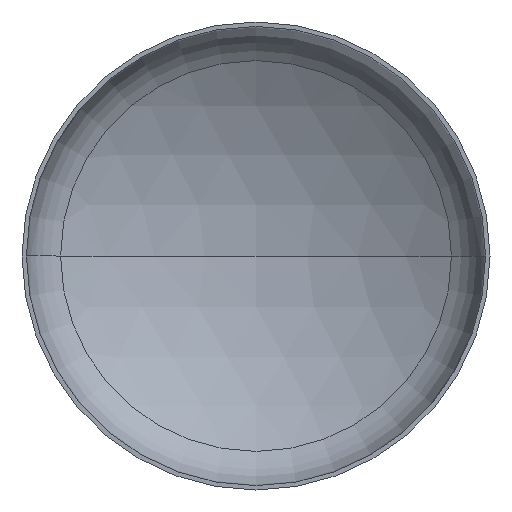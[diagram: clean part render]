
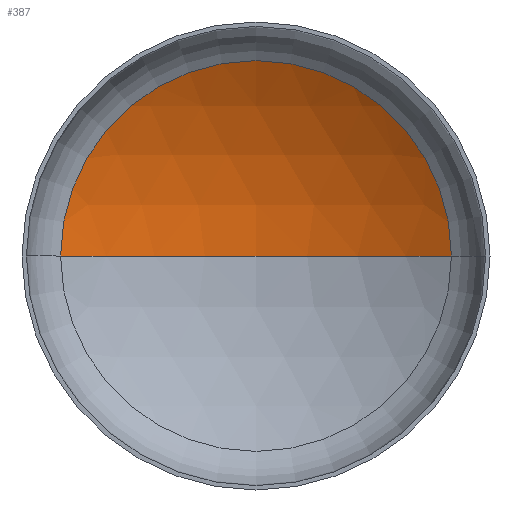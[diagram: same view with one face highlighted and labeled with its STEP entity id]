
A CAD part, front view. The second image highlights one B-rep face of the part: STEP entity #387.
In plain terms, the highlighted spherical face has radius 1360 mm.
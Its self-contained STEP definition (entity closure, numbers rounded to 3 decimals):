
#2 = DIRECTION ( 'NONE',  ( -1., 0., 0. ) ) ;
#4 = DIRECTION ( 'NONE',  ( 1., 0., 0. ) ) ;
#5 = DIRECTION ( 'NONE',  ( 0., 0., 1. ) ) ;
#7 = CARTESIAN_POINT ( 'NONE',  ( 0., -883.362, 0. ) ) ;
#20 = AXIS2_PLACEMENT_3D ( 'NONE', #7, #5, #4 ) ;
#22 = AXIS2_PLACEMENT_3D ( 'NONE', #399, #232, #2 ) ;
#25 = AXIS2_PLACEMENT_3D ( 'NONE', #158, #134, #136 ) ;
#62 = EDGE_CURVE ( 'NONE', #341, #122, #224, .T. ) ;
#63 = EDGE_CURVE ( 'NONE', #191, #341, #143, .T. ) ;
#64 = EDGE_CURVE ( 'NONE', #191, #122, #369, .T. ) ;
#108 = EDGE_LOOP ( 'NONE', ( #155, #288, #172 ) ) ;
#122 = VERTEX_POINT ( 'NONE', #129 ) ;
#129 = CARTESIAN_POINT ( 'NONE',  ( -709.673, 276.795, 0. ) ) ;
#134 = DIRECTION ( 'NONE',  ( 0., -1., 0. ) ) ;
#136 = DIRECTION ( 'NONE',  ( 1., 0., 0. ) ) ;
#143 = CIRCLE ( 'NONE', #22, 1360. ) ;
#148 = FACE_OUTER_BOUND ( 'NONE', #108, .T. ) ;
#155 = ORIENTED_EDGE ( 'NONE', *, *, #64, .F. ) ;
#158 = CARTESIAN_POINT ( 'NONE',  ( 0., 276.795, 0. ) ) ;
#172 = ORIENTED_EDGE ( 'NONE', *, *, #62, .T. ) ;
#191 = VERTEX_POINT ( 'NONE', #195 ) ;
#195 = CARTESIAN_POINT ( 'NONE',  ( 0., 476.638, 0. ) ) ;
#224 = CIRCLE ( 'NONE', #25, 709.673 ) ;
#229 = SPHERICAL_SURFACE ( 'NONE', #338, 1360. ) ;
#232 = DIRECTION ( 'NONE',  ( 0., 0., -1. ) ) ;
#238 = DIRECTION ( 'NONE',  ( 0., 0., -1. ) ) ;
#288 = ORIENTED_EDGE ( 'NONE', *, *, #63, .T. ) ;
#290 = DIRECTION ( 'NONE',  ( -1., 0., 0. ) ) ;
#329 = CARTESIAN_POINT ( 'NONE',  ( 0., -883.362, 0. ) ) ;
#338 = AXIS2_PLACEMENT_3D ( 'NONE', #329, #238, #290 ) ;
#341 = VERTEX_POINT ( 'NONE', #350 ) ;
#350 = CARTESIAN_POINT ( 'NONE',  ( 709.673, 276.795, 0. ) ) ;
#369 = CIRCLE ( 'NONE', #20, 1360. ) ;
#387 = ADVANCED_FACE ( 'NONE', ( #148 ), #229, .F. ) ;
#399 = CARTESIAN_POINT ( 'NONE',  ( 0., -883.362, 0. ) ) ;
